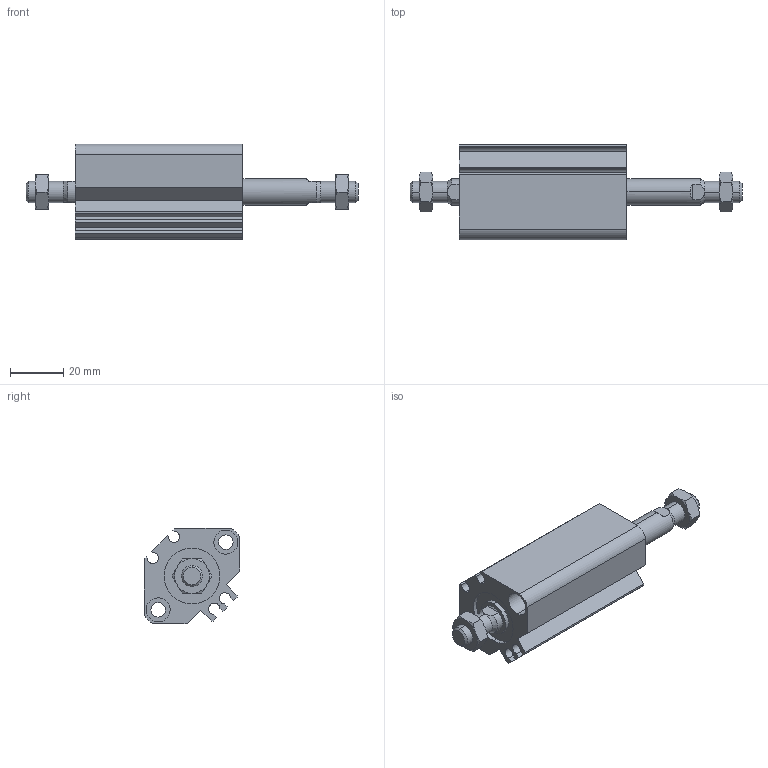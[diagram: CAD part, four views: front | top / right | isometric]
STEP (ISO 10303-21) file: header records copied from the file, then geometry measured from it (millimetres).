
FILE_DESCRIPTION (( 'STEP AP203' ), '1' );
FILE_NAME ('CCMB20-25M-P.STEP', '2020-08-10T11:21:20', ( '' ), ( '' ), 'SwSTEP 2.0', 'SolidWorks 2019', '' );
FILE_SCHEMA (( 'CONFIG_CONTROL_DESIGN' ));
Length unit declared in the file: millimetre
Products named in the file (1): CCMB20-25M-P
Bounding box: 125 x 36 x 36 mm (x, y, z)
Volume: 59902.3 mm3; surface area: 25207.8 mm2
Topology: 4 solids, 4 shells, 166 faces, 384 edges, 240 vertices
Faces by surface type: plane 66, cylinder 56, cone 44
Entity records: 5367 total; most frequent: CARTESIAN_POINT 1507, DIRECTION 806, ORIENTED_EDGE 768, EDGE_CURVE 384, AXIS2_PLACEMENT_3D 319, VERTEX_POINT 240, EDGE_LOOP 190, LINE 168
